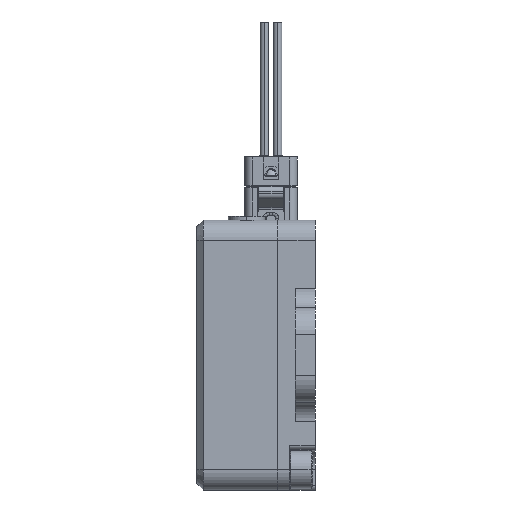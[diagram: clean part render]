
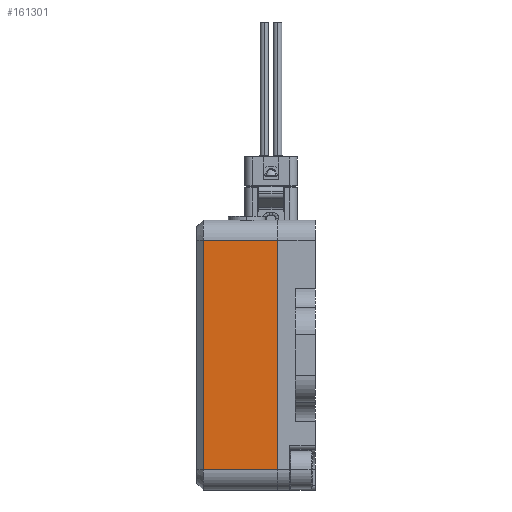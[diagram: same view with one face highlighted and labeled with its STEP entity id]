
A CAD part, left-side view. The second image highlights one B-rep face of the part: STEP entity #161301.
In plain terms, the highlighted planar face has unit normal (-1, 0, 0).
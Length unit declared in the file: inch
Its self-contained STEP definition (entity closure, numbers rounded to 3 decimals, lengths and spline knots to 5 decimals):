
#1881 = EDGE_CURVE ( 'NONE', #98234, #195491, #13694, .T. ) ;
#6472 = ORIENTED_EDGE ( 'NONE', *, *, #47653, .T. ) ;
#7251 = DIRECTION ( 'NONE',  ( 1., 0., 0. ) ) ;
#11394 = LINE ( 'NONE', #22043, #105064 ) ;
#13071 = CARTESIAN_POINT ( 'NONE',  ( -0.5, 0.44, -0.075 ) ) ;
#13694 = LINE ( 'NONE', #73808, #149581 ) ;
#20680 = LINE ( 'NONE', #13071, #66175 ) ;
#22043 = CARTESIAN_POINT ( 'NONE',  ( -0.5, 0.415, 0. ) ) ;
#31099 = ORIENTED_EDGE ( 'NONE', *, *, #225800, .T. ) ;
#36253 = VERTEX_POINT ( 'NONE', #211201 ) ;
#40660 = DIRECTION ( 'NONE',  ( 0., 0., -1. ) ) ;
#47653 = EDGE_CURVE ( 'NONE', #195491, #249009, #106708, .T. ) ;
#66175 = VECTOR ( 'NONE', #190467, 39.37008 ) ;
#73808 = CARTESIAN_POINT ( 'NONE',  ( -0.5, 0.44, -0.925 ) ) ;
#83808 = EDGE_LOOP ( 'NONE', ( #213965, #31099, #242583, #6472 ) ) ;
#92702 = CARTESIAN_POINT ( 'NONE',  ( -0.5, 0.415, -0.925 ) ) ;
#97406 = DIRECTION ( 'NONE',  ( 0., 0., 1. ) ) ;
#98234 = VERTEX_POINT ( 'NONE', #92702 ) ;
#102864 = DIRECTION ( 'NONE',  ( 0., 0., -1. ) ) ;
#105064 = VECTOR ( 'NONE', #40660, 39.37008 ) ;
#106708 = LINE ( 'NONE', #129405, #215606 ) ;
#123114 = PLANE ( 'NONE',  #189582 ) ;
#129405 = CARTESIAN_POINT ( 'NONE',  ( -0.5, 0.14, 0. ) ) ;
#139030 = CARTESIAN_POINT ( 'NONE',  ( -0.5, 0.14, -0.925 ) ) ;
#149581 = VECTOR ( 'NONE', #186988, 39.37008 ) ;
#151386 = EDGE_CURVE ( 'NONE', #249009, #36253, #20680, .T. ) ;
#161301 = ADVANCED_FACE ( 'NONE', ( #178358 ), #123114, .F. ) ;
#178358 = FACE_OUTER_BOUND ( 'NONE', #83808, .T. ) ;
#186988 = DIRECTION ( 'NONE',  ( 0., -1., 0. ) ) ;
#189582 = AXIS2_PLACEMENT_3D ( 'NONE', #216111, #7251, #102864 ) ;
#190467 = DIRECTION ( 'NONE',  ( 0., 1., 0. ) ) ;
#195491 = VERTEX_POINT ( 'NONE', #139030 ) ;
#201861 = CARTESIAN_POINT ( 'NONE',  ( -0.5, 0.14, -0.075 ) ) ;
#211201 = CARTESIAN_POINT ( 'NONE',  ( -0.5, 0.415, -0.075 ) ) ;
#213965 = ORIENTED_EDGE ( 'NONE', *, *, #151386, .T. ) ;
#215606 = VECTOR ( 'NONE', #97406, 39.37008 ) ;
#216111 = CARTESIAN_POINT ( 'NONE',  ( -0.5, 0.44, 0. ) ) ;
#225800 = EDGE_CURVE ( 'NONE', #36253, #98234, #11394, .T. ) ;
#242583 = ORIENTED_EDGE ( 'NONE', *, *, #1881, .T. ) ;
#249009 = VERTEX_POINT ( 'NONE', #201861 ) ;
